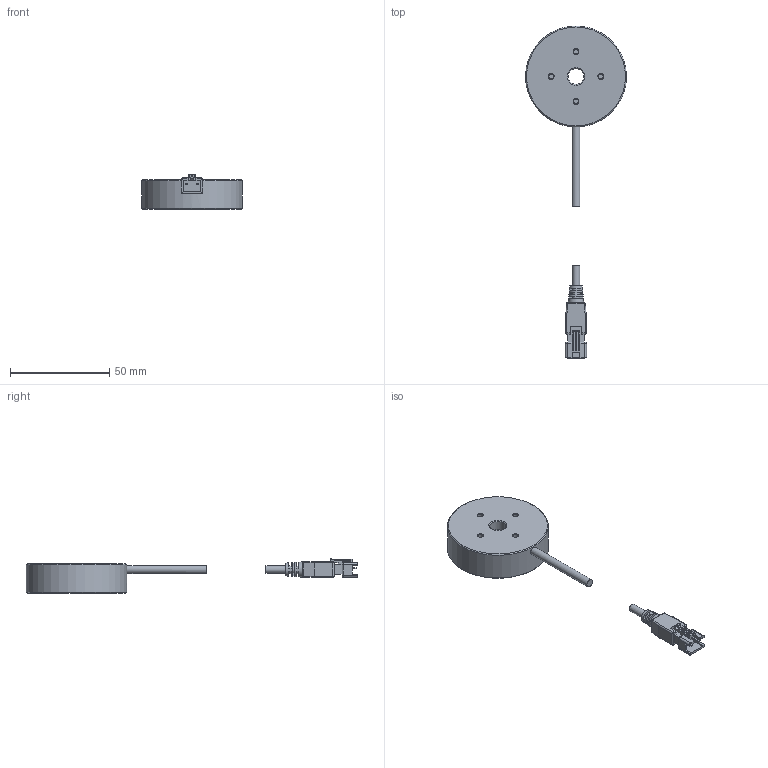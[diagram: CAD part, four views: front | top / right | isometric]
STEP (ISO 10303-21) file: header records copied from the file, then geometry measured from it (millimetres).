
FILE_DESCRIPTION(('STEP AP214'),'1');
FILE_NAME('DC-30D-51W.stp','2026-04-09T08:14:09',(' '),(' '),'Spatial InterOp 3D',' ',' ');
FILE_SCHEMA(('AUTOMOTIVE_DESIGN { 1 0 10303 214 1 1 1 1 }'));
Length unit declared in the file: metre
Products named in the file (3): DC-30D-51W; VLBHA30D50R1-24V-1; Component2
Assembly tree (2 placements, depth 2):
  DC-30D-51W
    VLBHA30D50R1-24V-1
    Component2
Bounding box: 50.8 x 167.03 x 17.5 mm (x, y, z)
Volume: 23987.7 mm3; surface area: 12490 mm2
Topology: 2 solids, 3 shells, 181 faces, 463 edges, 294 vertices
Faces by surface type: plane 117, cylinder 43, cone 9, bspline 4, torus 4, sphere 4
Full cylindrical faces by diameter (mm): 2.5 x4, 3.9 x1, 4 x1, 8 x1, 37.445 x1, 42.117 x1, 47.8 x1, 50.8 x1
Entity records: 9109 total; most frequent: CARTESIAN_POINT 1440, DIRECTION 853, ORIENTED_EDGE 838, STYLED_ITEM 575, PRESENTATION_STYLE_ASSIGNMENT 575, COLOUR_RGB 575, EDGE_CURVE 419, CURVE_STYLE 392
